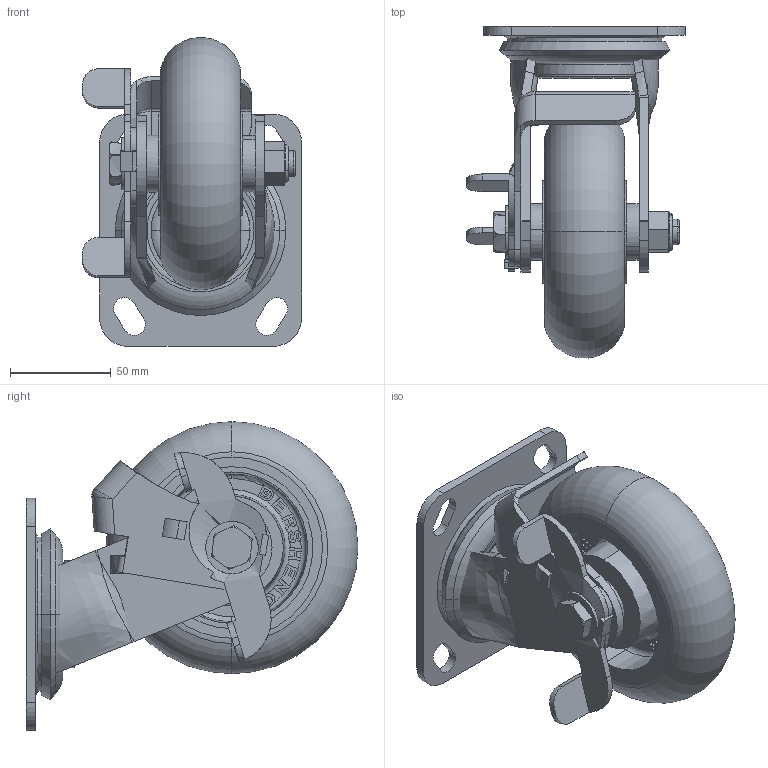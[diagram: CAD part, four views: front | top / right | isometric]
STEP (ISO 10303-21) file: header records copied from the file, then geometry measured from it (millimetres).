
FILE_DESCRIPTION (( 'STEP AP214' ), '1' );
FILE_NAME ('11240500554013.STEP', '2025-07-15T08:23:14', ( '' ), ( '' ), 'SwSTEP 2.0', 'SolidWorks 2024', '' );
FILE_SCHEMA (( 'AUTOMOTIVE_DESIGN' ));
Length unit declared in the file: millimetre
Products named in the file (14): 复件 (2) 底板_5寸DF活煞架_1_1; 复件 腳片右_5寸DF活煞架_預設_1_1; 11240500034023_1; _11510500454013.STEP-0_1; 11240500074033; 5''''''''EPU__________A_O; 复件 腳片左_5寸DF活煞架_預設_1_1; 5L煞車片_1; 11240500334913; 9.25套管_1_2.STEP_1; 5寸DF活煞架_1_1; 11240500554013; 4DF活煞MRC轮-QM_1; 11240400034023_1
Assembly tree (14 placements, depth 6):
  11240500554013
    11240500334913
      11240500074033
        11240500034023_1
          5寸DF活煞架_1_1
            复件 (2) 底板_5寸DF活煞架_1_1
            复件 腳片右_5寸DF活煞架_預設_1_1
            复件 腳片左_5寸DF活煞架_預設_1_1
          11240400034023_1
            4DF活煞MRC轮-QM_1
          _11510500454013.STEP-0_1
          5L煞車片_1
    5''''''''EPU__________A_O
    9.25套管_1_2.STEP_1  x2
Bounding box: 108.5 x 164.44 x 152.92 mm (x, y, z)
Volume: 548154.1 mm3; surface area: 132652 mm2
Topology: 8 solids, 16 shells, 912 faces, 2449 edges, 1586 vertices
Faces by surface type: plane 492, bspline 207, cylinder 130, torus 57, cone 26
Entity records: 48005 total; most frequent: CARTESIAN_POINT 26756, ORIENTED_EDGE 4818, DIRECTION 3450, EDGE_CURVE 2419, VERTEX_POINT 1578, VECTOR 1168, LINE 1168, AXIS2_PLACEMENT_3D 1141
